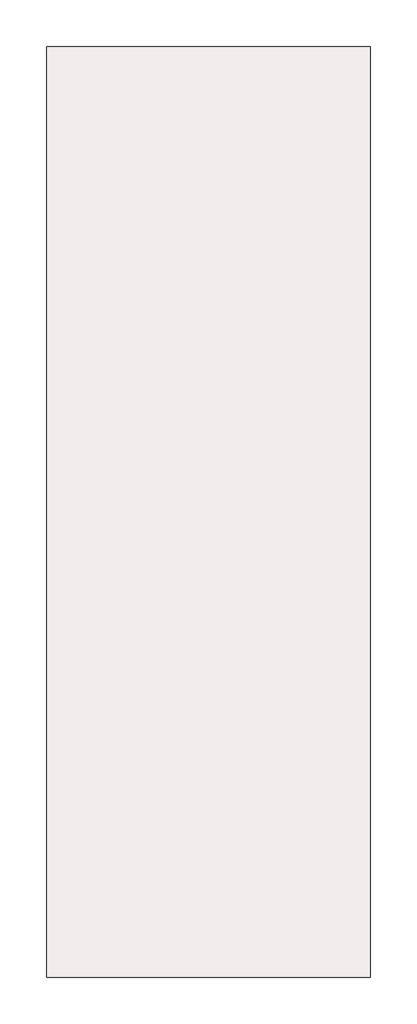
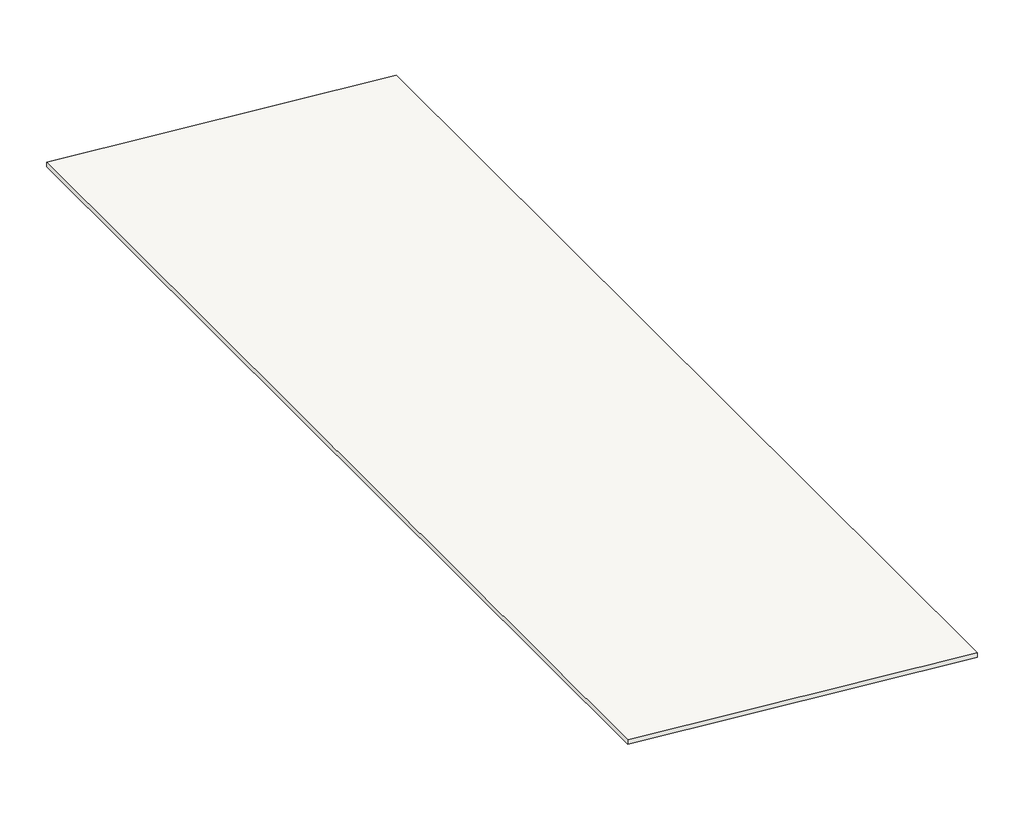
# One storey: 1 roof.
"""IFC4 building model written with IfcOpenShell, lengths in millimetres."""

from ifc_helpers import new_model, si_unit, frame, origin, place, context, project, spatial, polyline, outline, extrude, element, save

model = new_model("IFC4")

# Units and contexts
model_context = context("Model", 3, world=origin())
ifc_project = project(units=[si_unit("LENGTHUNIT", "METRE", prefix="MILLI")], contexts=[model_context])

# Site, building, storey
site = spatial("IfcSite", under=ifc_project)
building = spatial("IfcBuilding", under=site)
storey = spatial("IfcBuildingStorey", under=building, Name="R2階", Elevation=64000.0)

# Roof
placement = place(None, origin())
element("IfcRoof", 1, ObjectType="Metal Deck_Kingspan_Horiz", at=placement, inside=storey, context=model_context, shape_type="SweptSolid", body=[
    extrude(outline(polyline([(64087.3323259, 20219.6062665), (64658.1958554, 13694.6062665), (64570.8635295, 13694.6062665), (64000.0, 20219.6062665), (64087.3323259, 20219.6062665)])), frame((0.0, -60.0, 0.0), z_axis=(0.0, 1.0, 0.0), x_axis=(0.0, 0.0, 1.0)), (0.0, 0.0, 1.0), 18770.0),
])

save(model, "model.ifc")
